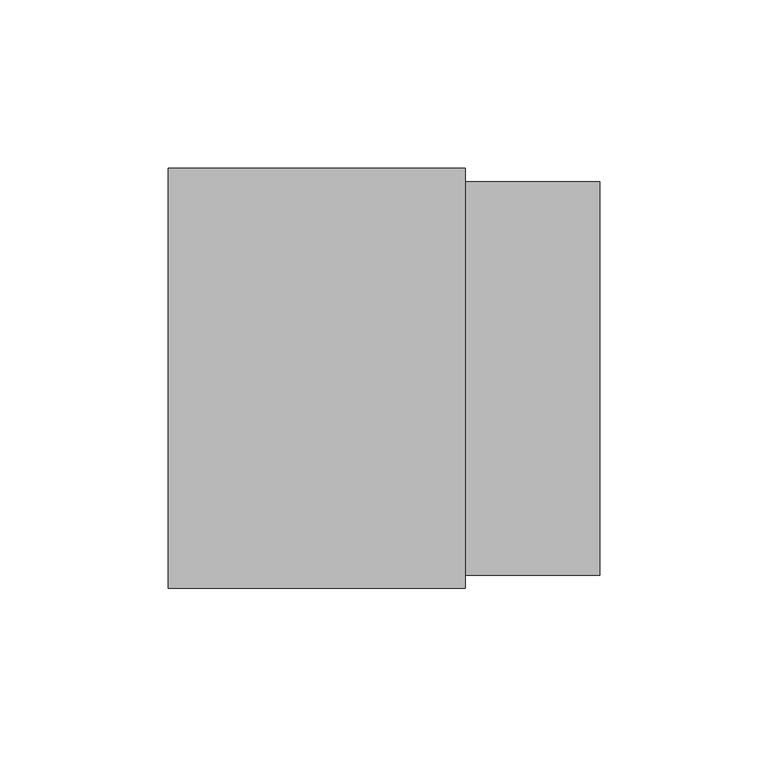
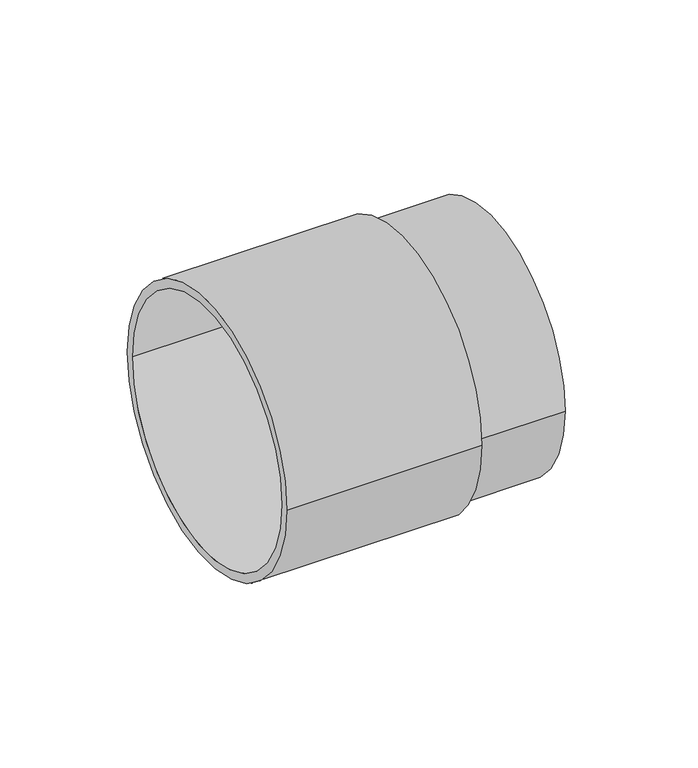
"""IFC4 building model written with IfcOpenShell, lengths in millimetres: duct fitting geometry, NLRS_57_DUF_UN_terminal extension_M&G : 117/125mm."""

from ifc_helpers import new_model, si_unit, point, frame, origin, origin_2d, place, context, project, spatial, circle_curve, trimmed, segment, composite_curve, outline, extrude, source, transform, mapped, element, save


def duct_fitting_a33ba128(model_context):
    return source(origin(), model_context, "Body", "SweptSolid", [
        extrude(outline(composite_curve([segment(trimmed(circle_curve(origin_2d(), 58.5), [point((-58.5, 0.0))], [point((58.5, 0.0))], False, "CARTESIAN"), True, "CONTINUOUS"), segment(trimmed(circle_curve(origin_2d(), 58.5), [point((58.5, 0.0))], [point((-58.5, 0.0))], False, "CARTESIAN"), True, "CONTINUOUS")], self_intersect=False)), frame((88.4, 0.0, 0.0), z_axis=(1.0, 0.0, 0.0), x_axis=(0.0, 1.0, 0.0)), (0.0, 0.0, 1.0), 40.0),
        extrude(outline(composite_curve([segment(trimmed(circle_curve(origin_2d(), 62.5), [point((-62.5, 0.0))], [point((62.5, 0.0))], False, "CARTESIAN"), True, "CONTINUOUS"), segment(trimmed(circle_curve(origin_2d(), 62.5), [point((62.5, 0.0))], [point((-62.5, 0.0))], False, "CARTESIAN"), True, "CONTINUOUS")], self_intersect=False), holes=[composite_curve([segment(trimmed(circle_curve(origin_2d(), 58.5), [point((-58.5, 0.0))], [point((58.5, 0.0))], True, "CARTESIAN"), True, "CONTINUOUS"), segment(trimmed(circle_curve(origin_2d(), 58.5), [point((58.5, 0.0))], [point((-58.5, 0.0))], True, "CARTESIAN"), True, "CONTINUOUS")], self_intersect=False)]), frame((0.0, 0.0, 0.0), z_axis=(1.0, 0.0, 0.0), x_axis=(0.0, 1.0, 0.0)), (0.0, 0.0, 1.0), 88.4),
    ])


if __name__ == "__main__":
    model = new_model("IFC4")
    model_context = context("Model", 3, world=origin())
    ifc_project = project(units=[si_unit("LENGTHUNIT", "METRE", prefix="MILLI")], contexts=[model_context])
    site = spatial("IfcSite", under=ifc_project)
    building = spatial("IfcBuilding", under=site)
    placement = place(None, origin())
    duct_fitting_shape = duct_fitting_a33ba128(model_context)
    element("IfcDuctFitting", 1, ObjectType="NLRS_57_DUF_UN_terminal extension_M&G : 117/125mm", at=placement, inside=building, context=model_context, shape_type="MappedRepresentation", body=[
        mapped(duct_fitting_shape, transform((0.0, 0.0, 0.0), x_axis=(1.0, 0.0, 0.0), y_axis=(0.0, 1.0, 0.0), z_axis=(0.0, 0.0, 1.0))),
    ])
    save(model, "model.ifc")
